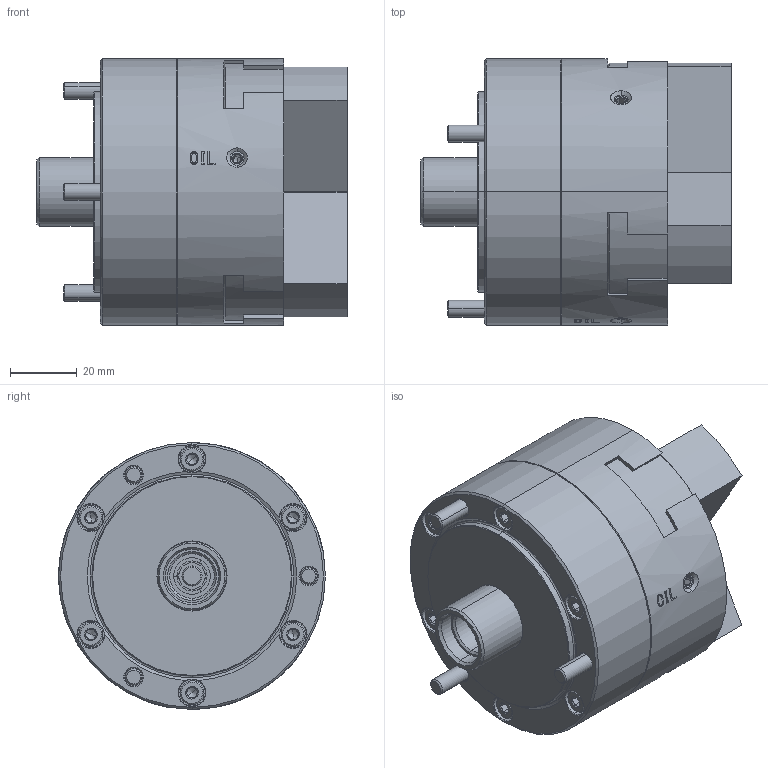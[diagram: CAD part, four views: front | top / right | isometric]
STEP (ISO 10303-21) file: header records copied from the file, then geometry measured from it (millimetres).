
FILE_DESCRIPTION (( 'STEP AP214' ), '1' );
FILE_NAME ('DEV-KPC803C100-OUUTSIDE_VIEW_OC.STEP', '2023-12-21T06:01:51', ( '' ), ( '' ), 'SwSTEP 2.0', 'SolidWorks 2022', '' );
FILE_SCHEMA (( 'AUTOMOTIVE_DESIGN' ));
Length unit declared in the file: millimetre
Products named in the file (7): Copy of 0030105016^DEV-KPC803C100-クミタテ; Part1^DEV-KPC803C100-クミタテ; Copy of 0284210012^DEV-KPC803C100-クミタテ; Copy of 61P315009^DEV-KPC803C100-クミタテ; DEV-KPC803C100-OUUTSIDE_VIEW_OC; Copy of 61P418231^DEV-KPC803C100-クミタテ; Copy of 0030105060^DEV-KPC803C100-クミタテ
Assembly tree (17 placements, depth 2):
  DEV-KPC803C100-OUUTSIDE_VIEW_OC
    Copy of 61P315009^DEV-KPC803C100-クミタテ  x3
    Copy of 61P418231^DEV-KPC803C100-クミタテ
    Copy of 0030105060^DEV-KPC803C100-クミタテ  x3
    Copy of 0030105016^DEV-KPC803C100-クミタテ  x3
    Copy of 0284210012^DEV-KPC803C100-クミタテ  x6
    Part1^DEV-KPC803C100-クミタテ
Bounding box: 93 x 80 x 80 mm (x, y, z)
Volume: 313039 mm3; surface area: 55951.5 mm2
Topology: 19 solids, 22 shells, 1527 faces, 3863 edges, 2464 vertices
Faces by surface type: plane 711, cone 300, cylinder 264, bspline 228, torus 24
Entity records: 49914 total; most frequent: CARTESIAN_POINT 18266, ORIENTED_EDGE 6870, DIRECTION 5650, EDGE_CURVE 3435, VERTEX_POINT 2224, VECTOR 1966, LINE 1966, AXIS2_PLACEMENT_3D 1842
